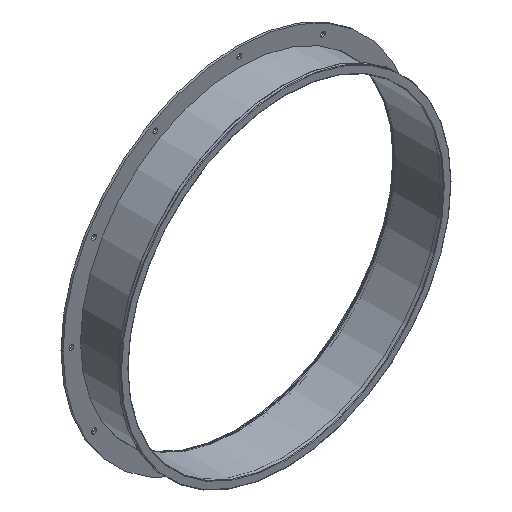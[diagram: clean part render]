
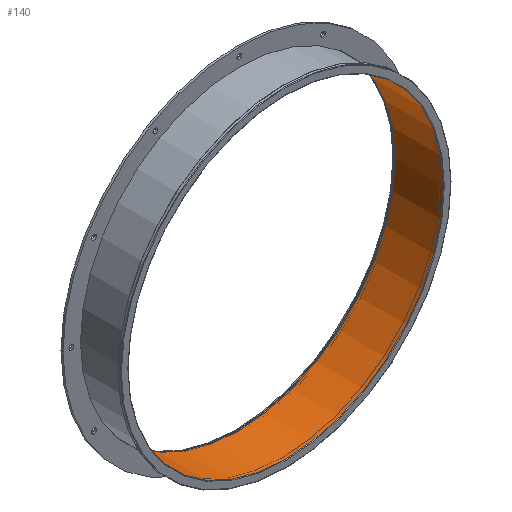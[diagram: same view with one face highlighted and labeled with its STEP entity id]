
A CAD part, isometric view. The second image highlights one B-rep face of the part: STEP entity #140.
In plain terms, the highlighted cylindrical face has radius 315 mm (diameter 630 mm), a full revolution.
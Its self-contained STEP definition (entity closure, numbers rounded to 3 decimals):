
#107=CYLINDRICAL_SURFACE('',#619,315.);
#140=ADVANCED_FACE('',(#181,#182),#107,.F.);
#181=FACE_BOUND('',#277,.T.);
#182=FACE_BOUND('',#278,.T.);
#277=EDGE_LOOP('',(#373));
#278=EDGE_LOOP('',(#374));
#373=ORIENTED_EDGE('',*,*,#516,.T.);
#374=ORIENTED_EDGE('',*,*,#517,.T.);
#468=VERTEX_POINT('',#880);
#469=VERTEX_POINT('',#882);
#516=EDGE_CURVE('',#468,#468,#564,.T.);
#517=EDGE_CURVE('',#469,#469,#565,.T.);
#564=CIRCLE('',#617,315.);
#565=CIRCLE('',#618,315.);
#617=AXIS2_PLACEMENT_3D('',#879,#714,#715);
#618=AXIS2_PLACEMENT_3D('',#881,#716,#717);
#619=AXIS2_PLACEMENT_3D('',#883,#718,#719);
#714=DIRECTION('',(0.,-1.,0.));
#715=DIRECTION('',(-1.,0.,0.));
#716=DIRECTION('',(0.,1.,0.));
#717=DIRECTION('',(1.,0.,0.));
#718=DIRECTION('',(0.,1.,0.));
#719=DIRECTION('',(1.,0.,0.));
#879=CARTESIAN_POINT('',(0.,1.,0.));
#880=CARTESIAN_POINT('',(-315.,1.,0.));
#881=CARTESIAN_POINT('',(0.,99.,0.));
#882=CARTESIAN_POINT('',(315.,99.,0.));
#883=CARTESIAN_POINT('',(0.,-192.076,0.));
